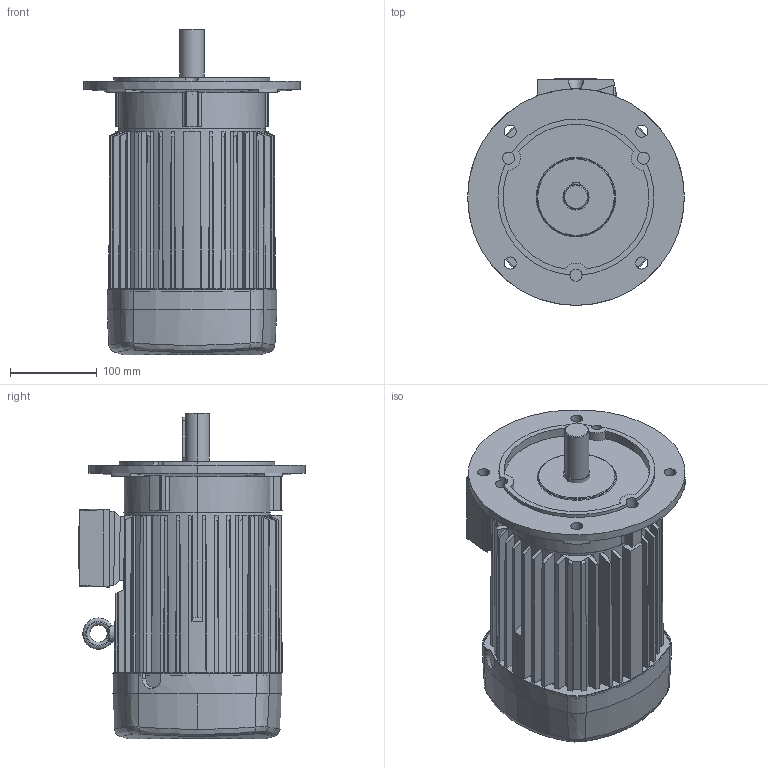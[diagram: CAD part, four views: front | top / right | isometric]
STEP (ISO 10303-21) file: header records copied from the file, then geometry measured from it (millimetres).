
FILE_DESCRIPTION (( 'STEP AP214' ), '1' );
FILE_NAME ('IE3-W41R100LY2_B5FF215.STEP', '2024-10-22T06:31:45', ( '' ), ( '' ), 'SwSTEP 2.0', 'SolidWorks 2023', '' );
FILE_SCHEMA (( 'AUTOMOTIVE_DESIGN' ));
Length unit declared in the file: millimetre
Products named in the file (10): Verschlussschraube_M25; LF_FF_Kat_13FF215; G100S_Kat; WE_Kat_28x60 (BG112); IE3-W41R100LY2_B5FF215; LHB_Kat_LHB10; KA05_komplett_Kat_VSS_M25; Ringschraube_M8; KA05_Kat; KD05_Kat
Assembly tree (9 placements, depth 3):
  IE3-W41R100LY2_B5FF215
    G100S_Kat
    LHB_Kat_LHB10
    KA05_komplett_Kat_VSS_M25
      KA05_Kat
      KD05_Kat
      Verschlussschraube_M25
    Ringschraube_M8
    LF_FF_Kat_13FF215
    WE_Kat_28x60 (BG112)
Bounding box: 250 x 261.96 x 376 mm (x, y, z)
Volume: 9037435.5 mm3; surface area: 598940.9 mm2
Topology: 8 solids, 8 shells, 483 faces, 1269 edges, 814 vertices
Faces by surface type: plane 268, cylinder 104, cone 85, bspline 16, torus 8, sphere 2
Entity records: 16912 total; most frequent: CARTESIAN_POINT 5084, ORIENTED_EDGE 2538, DIRECTION 2301, EDGE_CURVE 1269, AXIS2_PLACEMENT_3D 845, VERTEX_POINT 814, LINE 611, VECTOR 611
